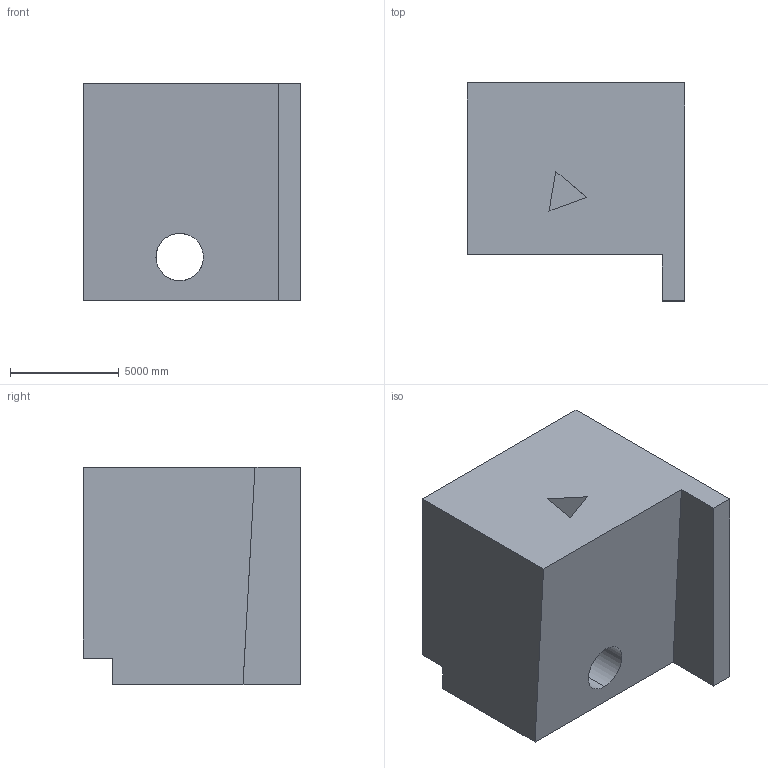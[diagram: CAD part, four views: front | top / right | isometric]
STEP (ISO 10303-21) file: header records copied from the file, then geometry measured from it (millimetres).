
FILE_DESCRIPTION (( 'STEP AP203' ), '1' );
FILE_NAME ('1573.STEP', '2022-08-18T15:53:07', ( 'user' ), ( '' ), 'SwSTEP 2.0', 'SolidWorks 2021', '' );
FILE_SCHEMA (( 'CONFIG_CONTROL_DESIGN' ));
Length unit declared in the file: centimetre
Products named in the file (1): 1573
Bounding box: 10000 x 10000 x 10000 mm (x, y, z)
Volume: 720742783976.4 mm3; surface area: 664837930.6 mm2
Topology: 1 solids, 1 shells, 27 faces, 78 edges, 52 vertices
Faces by surface type: plane 24, cylinder 3
Entity records: 961 total; most frequent: CARTESIAN_POINT 182, ORIENTED_EDGE 156, DIRECTION 130, EDGE_CURVE 78, LINE 66, VECTOR 66, VERTEX_POINT 52, AXIS2_PLACEMENT_3D 32
